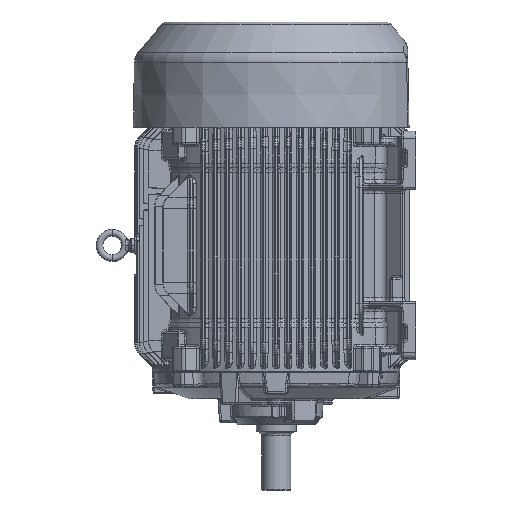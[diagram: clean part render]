
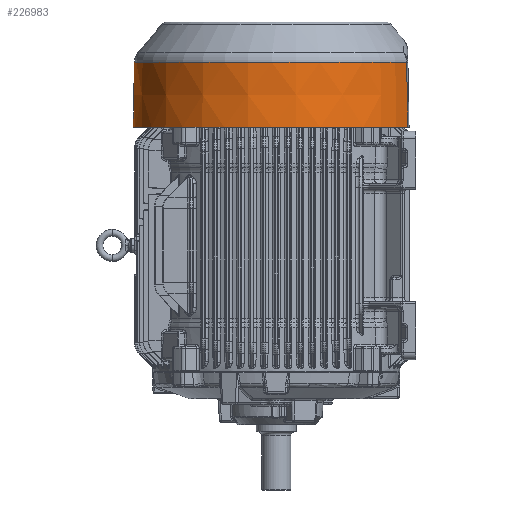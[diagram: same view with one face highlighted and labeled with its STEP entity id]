
A CAD part, left-side view. The second image highlights one B-rep face of the part: STEP entity #226983.
In plain terms, the highlighted conical face has half-angle 1 degrees and reference radius 233.124 mm.
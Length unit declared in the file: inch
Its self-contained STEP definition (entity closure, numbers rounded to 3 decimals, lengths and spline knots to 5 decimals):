
#221061=CARTESIAN_POINT('',(-3.60457,-8.48033,0.));
#221073=CARTESIAN_POINT('',(3.60457,-8.48033,0.));
#221079=CARTESIAN_POINT('',(-3.59136,-8.40669,
-4.17906));
#221080=CARTESIAN_POINT('',(-3.59246,-8.41281,
-3.83188));
#221081=CARTESIAN_POINT('',(-3.59463,-8.42493,
-3.14247));
#221082=CARTESIAN_POINT('',(-3.59779,-8.44253,
-2.14475));
#221083=CARTESIAN_POINT('',(-3.60104,-8.46061,
-1.11863));
#221084=CARTESIAN_POINT('',(-3.60337,-8.47363,
-0.37999));
#221085=CARTESIAN_POINT('',(-3.60457,-8.48033,0.));
#221087=CARTESIAN_POINT('',(0.,0.,-4.17906));
#221088=DIRECTION('',(0.,0.,-1.));
#221089=DIRECTION('',(-0.393,-0.92,0.));
#221090=AXIS2_PLACEMENT_3D('',#221087,#221088,#221089);
#221092=CARTESIAN_POINT('',(3.60457,-8.48033,0.));
#221093=CARTESIAN_POINT('',(3.60357,-8.47474,
-0.31672));
#221094=CARTESIAN_POINT('',(3.60153,-8.46334,
-0.96364));
#221095=CARTESIAN_POINT('',(3.59836,-8.4457,
-1.96446));
#221096=CARTESIAN_POINT('',(3.595,-8.427,
-3.02559));
#221097=CARTESIAN_POINT('',(3.59259,-8.41359,
-3.7864));
#221098=CARTESIAN_POINT('',(3.59135,-8.40667,
-4.17906));
#221100=CARTESIAN_POINT('',(0.,0.,0.));
#221101=DIRECTION('',(0.,0.,1.));
#221102=DIRECTION('',(0.391,-0.92,0.));
#221103=AXIS2_PLACEMENT_3D('',#221100,#221101,#221102);
#225312=VERTEX_POINT('',#221061);
#225315=VERTEX_POINT('',#221079);
#225322=CARTESIAN_POINT('',(3.59124,-8.40671,
-4.17906));
#225323=VERTEX_POINT('',#225322);
#225325=VERTEX_POINT('',#221073);
#226971=CARTESIAN_POINT('',(0.,0.,-2.08953));
#226972=DIRECTION('',(0.,0.,1.));
#226973=DIRECTION('',(0.,1.,0.));
#226974=AXIS2_PLACEMENT_3D('',#226971,#226972,#226973);
#226975=CONICAL_SURFACE('',#226974,9.17813,1.);
#226976=ORIENTED_EDGE('',*,*,#226952,.F.);
#226977=ORIENTED_EDGE('',*,*,#226798,.T.);
#226979=ORIENTED_EDGE('',*,*,#226978,.F.);
#226980=ORIENTED_EDGE('',*,*,#226963,.T.);
#226981=EDGE_LOOP('',(#226976,#226977,#226979,#226980));
#226982=FACE_OUTER_BOUND('',#226981,.F.);
#226983=ADVANCED_FACE('',(#226982),#226975,.T.);
#221086=B_SPLINE_CURVE_WITH_KNOTS('',3,(#221079,#221080,#221081,#221082,#221083,
#221084,#221085),.UNSPECIFIED.,.F.,.F.,(4,1,1,1,4),(0.,0.25,0.5,0.75,
1.),.UNSPECIFIED.);
#221091=CIRCLE('',#221090,9.14165);
#221099=B_SPLINE_CURVE_WITH_KNOTS('',3,(#221092,#221093,#221094,#221095,#221096,
#221097,#221098),.UNSPECIFIED.,.F.,.F.,(4,1,1,1,4),(0.,0.25,0.5,0.75,
1.),.UNSPECIFIED.);
#221104=CIRCLE('',#221103,9.2146);
#226798=EDGE_CURVE('',#225315,#225323,#221091,.T.);
#226952=EDGE_CURVE('',#225315,#225312,#221086,.T.);
#226963=EDGE_CURVE('',#225325,#225312,#221104,.T.);
#226978=EDGE_CURVE('',#225325,#225323,#221099,.T.);
